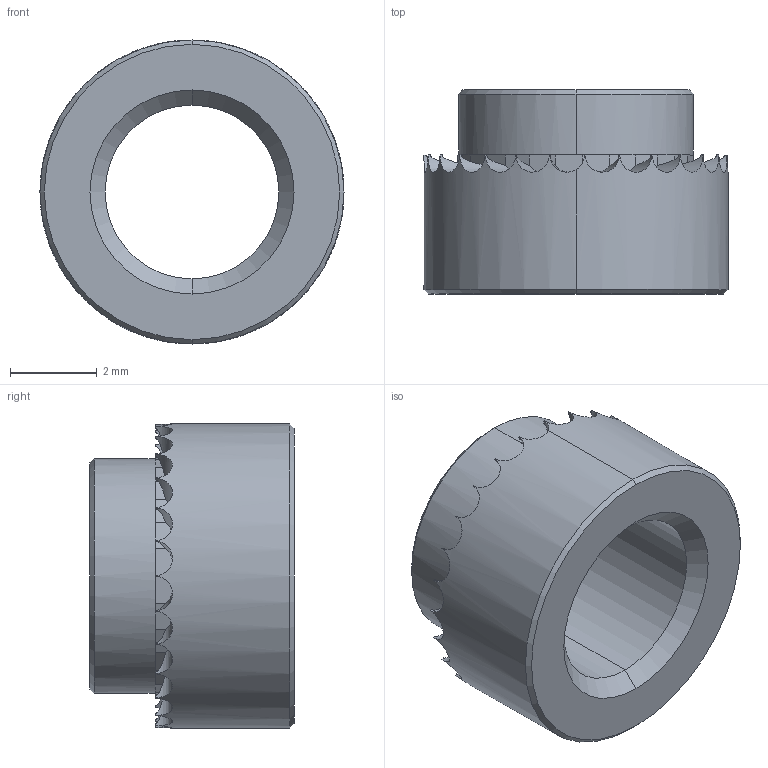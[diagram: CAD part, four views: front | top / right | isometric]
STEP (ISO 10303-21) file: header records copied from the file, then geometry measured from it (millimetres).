
FILE_DESCRIPTION (( 'STEP AP203' ), '1' );
FILE_NAME ('P0829.040-20G-ZP.step', '2019-03-21T22:14:45', ( '' ), ( '' ), 'SwSTEP 2.0', 'SolidWorks 2017', '' );
FILE_SCHEMA (( 'CONFIG_CONTROL_DESIGN' ));
Length unit declared in the file: millimetre
Products named in the file (1): P0829.040-20G-ZP
Bounding box: 7 x 4.7 x 7 mm (x, y, z)
Volume: 91.6 mm3; surface area: 203.3 mm2
Topology: 1 solids, 1 shells, 124 faces, 304 edges, 182 vertices
Faces by surface type: plane 83, cylinder 33, cone 8
Entity records: 3865 total; most frequent: CARTESIAN_POINT 943, ORIENTED_EDGE 608, DIRECTION 597, EDGE_CURVE 304, AXIS2_PLACEMENT_3D 224, VERTEX_POINT 182, VECTOR 149, LINE 149
